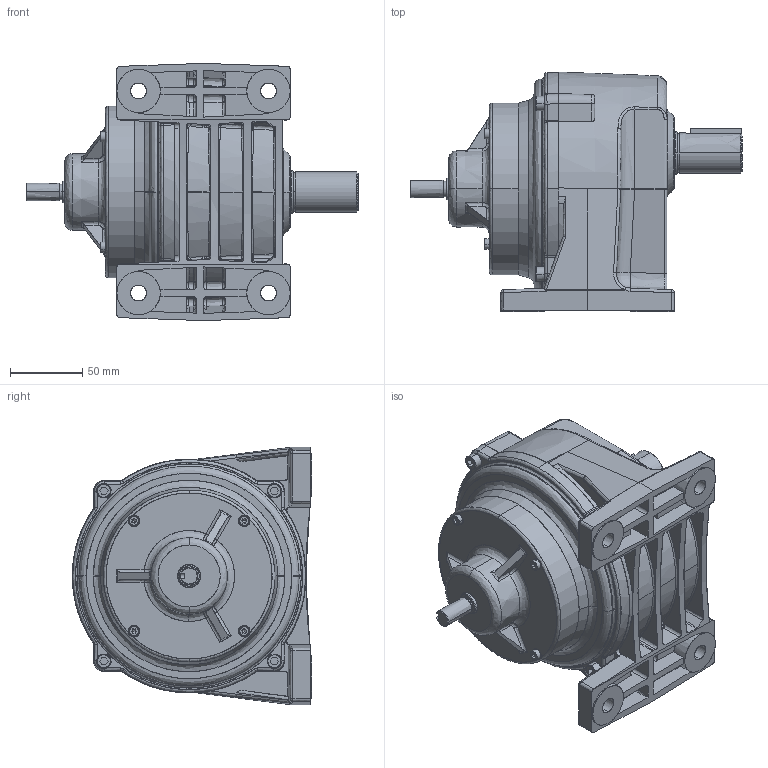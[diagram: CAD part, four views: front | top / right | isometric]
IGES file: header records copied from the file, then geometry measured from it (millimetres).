
Start section: SolidWorks IGES file using analytic representation for surfaces
Bounding box: 230 x 166 x 178.19 mm (x, y, z)
Surface area: 268106.9 mm2 (no closed solid volume)
Topology: 0 solids, 0 shells, 854 faces, 10743 edges, 10726 vertices
Faces by surface type: bspline 508, revolution 346
